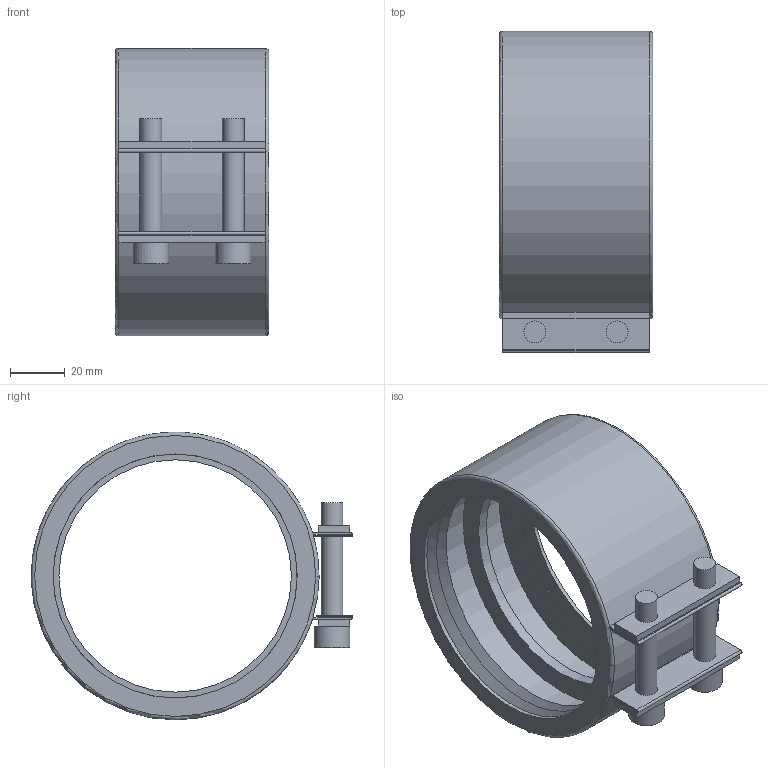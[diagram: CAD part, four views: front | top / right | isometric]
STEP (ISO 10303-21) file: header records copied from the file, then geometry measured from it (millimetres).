
FILE_DESCRIPTION( ( 'STEP AP214' ), '1' );
FILE_NAME( 'C:/Users/ilukic/Documents/ex/gebaudeentwasserung/pe/Geberit adapter clamping connector/359438.stp', '2020-03-26T18:41:18', ( '' ), ( '' ), ' ', 'PARTsolutions', ' ' );
FILE_SCHEMA( ( 'AUTOMOTIVE_DESIGN { 1 0 10303 214 1 1 1 1 }' ) );
Length unit declared in the file: millimetre
Products named in the file (1): _359438
Bounding box: 56 x 117.23 x 104.98 mm (x, y, z)
Volume: 77225.8 mm3; surface area: 69888.8 mm2
Topology: 1 solids, 1 shells, 121 faces, 309 edges, 202 vertices
Faces by surface type: plane 91, cylinder 22, cone 6, torus 2
Full cylindrical faces by diameter (mm): 8 x8, 13 x2, 84.762 x1, 89 x2, 100.768 x2
Entity records: 4378 total; most frequent: CARTESIAN_POINT 680, DIRECTION 544, ORIENTED_EDGE 536, EDGE_CURVE 268, AXIS2_PLACEMENT_3D 192, VERTEX_POINT 184, EDGE_LOOP 168, LINE 160
